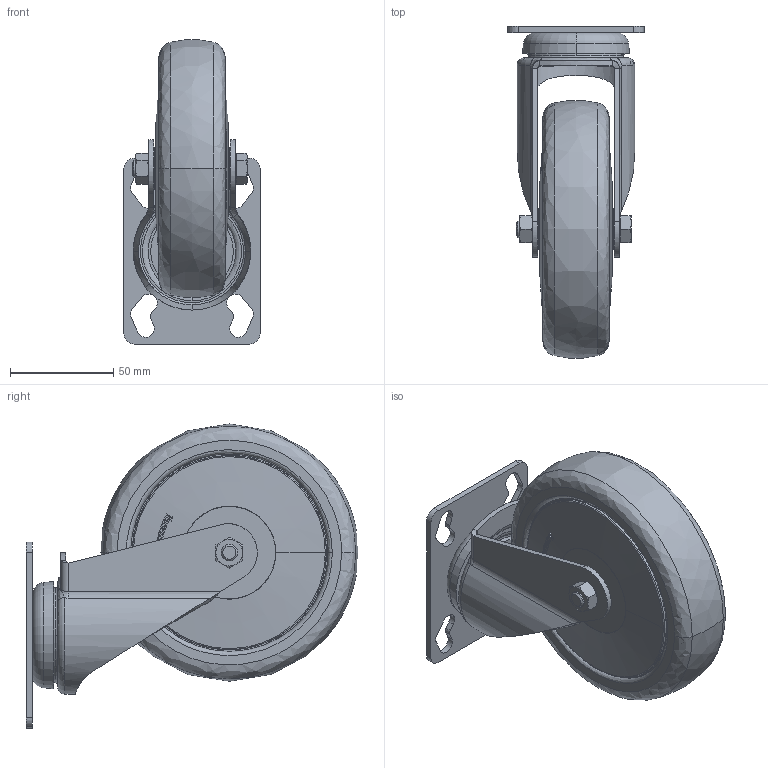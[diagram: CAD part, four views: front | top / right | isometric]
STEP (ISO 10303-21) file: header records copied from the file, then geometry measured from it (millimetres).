
FILE_DESCRIPTION (( 'STEP AP203' ), '1' );
FILE_NAME ('16591_LEN125MPLA.STEP', '2018-03-23T09:39:29', ( '' ), ( '' ), 'SwSTEP 2.0', 'SolidWorks 2017', '' );
FILE_SCHEMA (( 'CONFIG_CONTROL_DESIGN' ));
Length unit declared in the file: millimetre
Products named in the file (1): 16591_LEN125MPLA
Bounding box: 66 x 160.86 x 147.36 mm (x, y, z)
Volume: 454111.5 mm3; surface area: 76154.8 mm2
Topology: 3 solids, 3 shells, 1018 faces, 2662 edges, 1738 vertices
Faces by surface type: plane 518, bspline 298, cone 108, cylinder 62, torus 32
Entity records: 52404 total; most frequent: CARTESIAN_POINT 30283, ORIENTED_EDGE 5324, DIRECTION 3228, EDGE_CURVE 2662, VERTEX_POINT 1738, LINE 1220, VECTOR 1220, B_SPLINE_CURVE_WITH_KNOTS 1133
